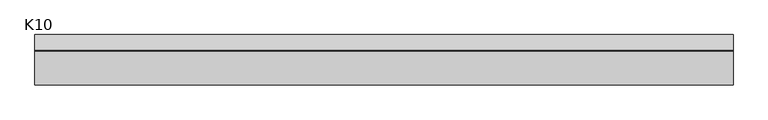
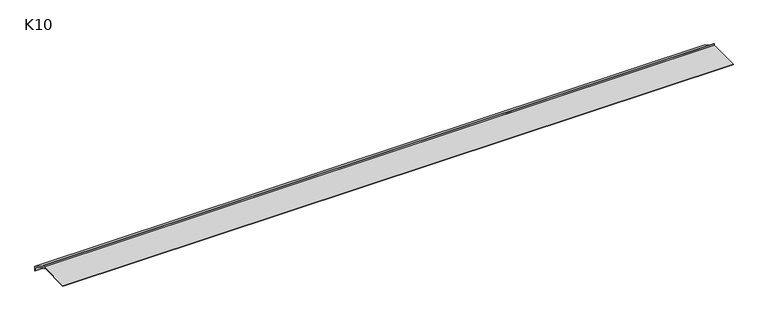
"""IFC4 building model written with IfcOpenShell, lengths in millimetres: proxy geometry, K10 Profil okapowy prosty bez rynny : K10."""

from ifc_helpers import new_model, si_unit, frame, origin, place, context, project, spatial, polyline, outline, extrude, source, transform, mapped, element, save


def k10_5e8f6a10(model_context):
    return source(origin(), model_context, "Body", "SweptSolid", [
        extrude(outline(polyline([(1.25, -3.0), (31.25, -21.1), (31.25, -30.42), (30.0, -29.17), (30.0, -21.8057194), (1.25, -4.4598861), (1.25, -7.25), (0.0, -7.25), (0.0, -4.25), (-65.0, -4.25), (-65.0, -3.0), (0.0, -3.0), (0.0, 0.0), (1.25, 0.0), (1.25, -3.0)])), frame((0.0, 0.0, 0.0), z_axis=(1.0, 0.0, 0.0), x_axis=(0.0, 1.0, 0.0)), (0.0, 0.0, 1.0), 1330.0),
    ])


if __name__ == "__main__":
    model = new_model("IFC4")
    model_context = context("Model", 3, world=origin())
    ifc_project = project(units=[si_unit("LENGTHUNIT", "METRE", prefix="MILLI")], contexts=[model_context])
    site = spatial("IfcSite", under=ifc_project)
    building = spatial("IfcBuilding", under=site)
    placement = place(None, origin())
    k10_shape = k10_5e8f6a10(model_context)
    element("IfcBuildingElementProxy", 1, Name="K10 Profil okapowy prosty bez rynny : K10", ObjectType="K10 Profil okapowy prosty bez rynny : K10", at=placement, inside=building, context=model_context, shape_type="MappedRepresentation", body=[
        mapped(k10_shape, transform((0.0, 0.0, 0.0), x_axis=(1.0, 0.0, 0.0), y_axis=(0.0, 1.0, 0.0), z_axis=(0.0, 0.0, 1.0))),
    ])
    save(model, "model.ifc")
